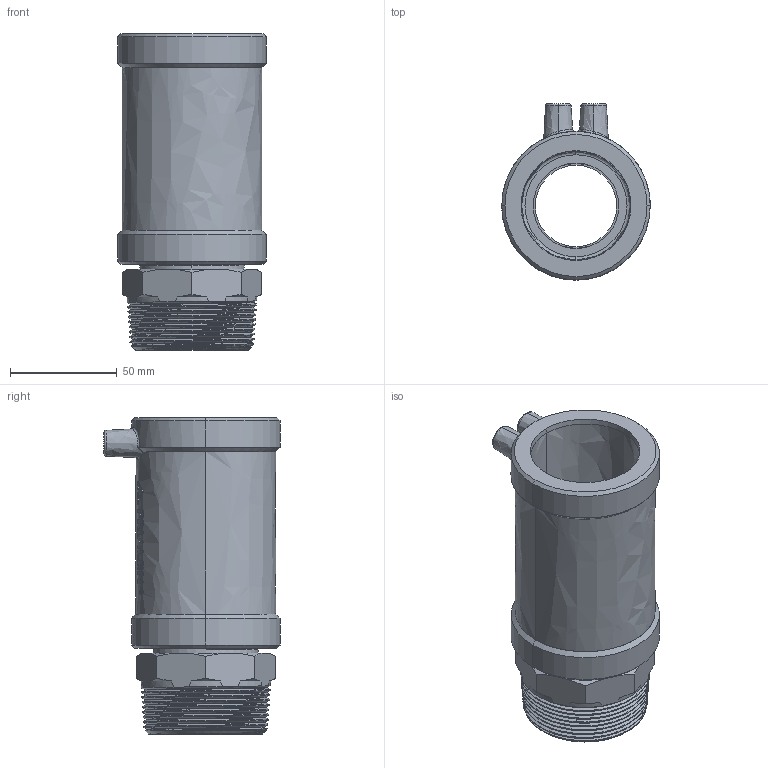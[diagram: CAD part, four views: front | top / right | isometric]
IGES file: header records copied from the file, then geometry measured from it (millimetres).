
Start section:  PTC IGES file: mun_d50_2_01.igs
Global section: file name: mun_d50_2_01.igs; native system: Pro/ENGINEER by Parametric Technology Corporation; preprocessor: 2011490; author: mtunjic; organization: Unknown; date: 20130823.150717; units: millimetre
Bounding box: 69.5 x 82.4 x 148.33 mm (x, y, z)
Surface area: 63954 mm2 (no closed solid volume)
Topology: 0 solids, 0 shells, 280 faces, 1472 edges, 1472 vertices
Faces by surface type: bspline 280
